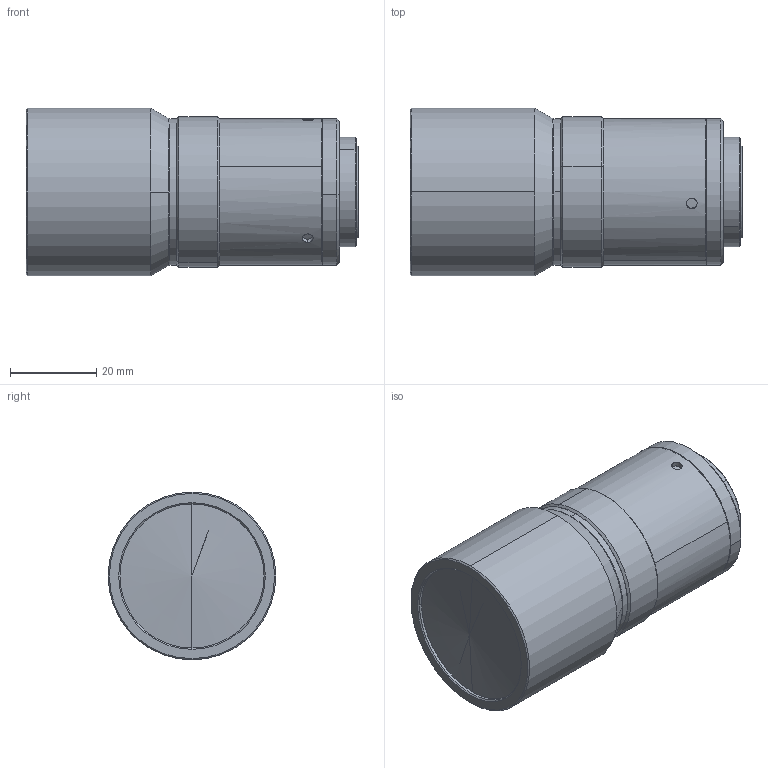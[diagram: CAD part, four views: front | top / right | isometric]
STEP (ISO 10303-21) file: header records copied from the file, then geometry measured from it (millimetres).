
FILE_DESCRIPTION (( 'STEP AP203' ), '1' );
FILE_NAME ('DTCM118-24H.STEP', '2022-12-11T03:20:23', ( '' ), ( '' ), 'SwSTEP 2.0', 'SolidWorks 2017', '' );
FILE_SCHEMA (( 'CONFIG_CONTROL_DESIGN' ));
Length unit declared in the file: millimetre
Products named in the file (1): DTCM118-24H
Bounding box: 77.2 x 39 x 39 mm (x, y, z)
Volume: 77009.5 mm3; surface area: 11032.5 mm2
Topology: 1 solids, 1 shells, 62 faces, 145 edges, 90 vertices
Faces by surface type: cone 29, cylinder 24, plane 7, bspline 2
Entity records: 2052 total; most frequent: CARTESIAN_POINT 548, DIRECTION 321, ORIENTED_EDGE 282, EDGE_CURVE 141, AXIS2_PLACEMENT_3D 135, VERTEX_POINT 90, CIRCLE 74, EDGE_LOOP 71
